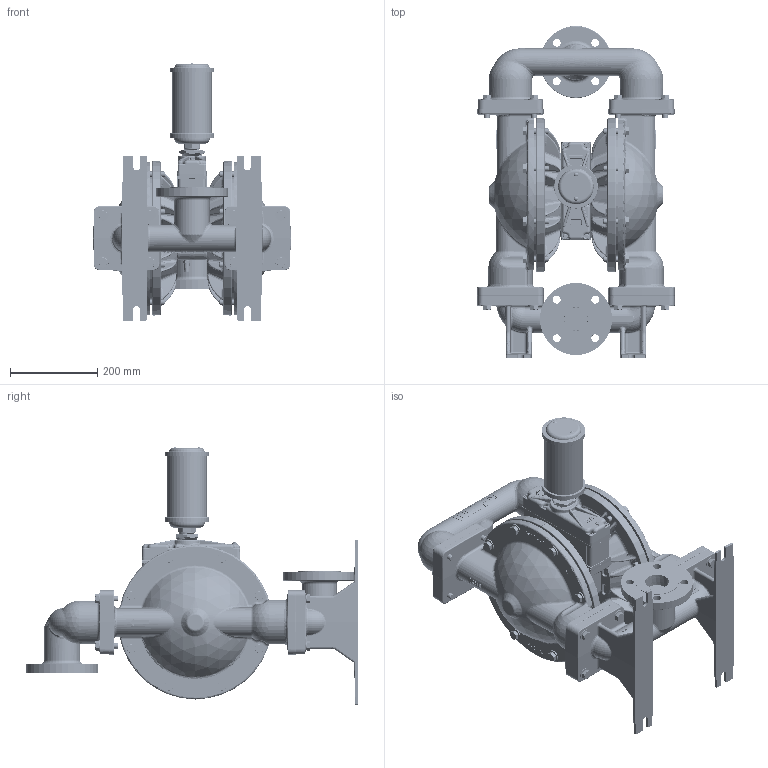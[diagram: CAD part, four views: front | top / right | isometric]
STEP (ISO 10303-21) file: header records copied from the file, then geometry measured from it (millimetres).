
FILE_DESCRIPTION (( 'STEP AP203' ), '1' );
FILE_NAME ('PS830_ADV_DI_DIN.STEP', '2022-06-16T05:42:47', ( '' ), ( '' ), 'SwSTEP 2.0', 'SolidWorks 2019', '' );
FILE_SCHEMA (( 'CONFIG_CONTROL_DESIGN' ));
Length unit declared in the file: inch
Products named in the file (1): PS830_ADV_DI_DIN
Bounding box: 452.44 x 760.73 x 590.4 mm (x, y, z)
Volume: 29006004.6 mm3; surface area: 1788645.7 mm2
Topology: 1 solids, 1 shells, 9766 faces, 25128 edges, 15828 vertices
Faces by surface type: plane 5839, bspline 1555, cylinder 1100, cone 597, torus 481, sphere 194
Entity records: 583421 total; most frequent: CARTESIAN_POINT 357064, ORIENTED_EDGE 50176, DIRECTION 42168, EDGE_CURVE 25088, VECTOR 16266, LINE 16266, VERTEX_POINT 15816, AXIS2_PLACEMENT_3D 12951
